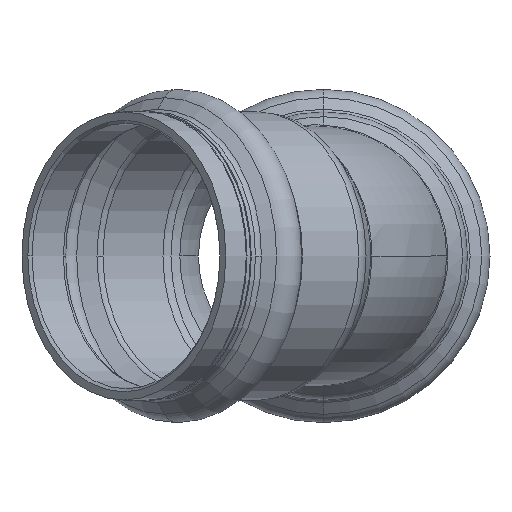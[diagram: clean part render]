
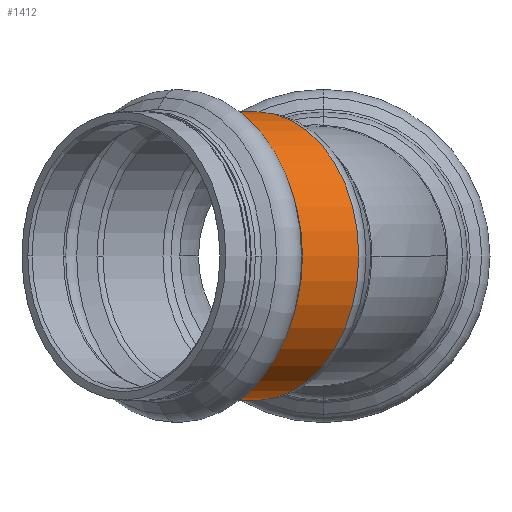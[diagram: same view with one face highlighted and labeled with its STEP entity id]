
A CAD part, left-side view. The second image highlights one B-rep face of the part: STEP entity #1412.
In plain terms, the highlighted cylindrical face has radius 19.15 mm (diameter 38.3 mm), a partial arc.
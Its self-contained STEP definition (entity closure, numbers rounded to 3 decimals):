
#180 = FACE_OUTER_BOUND ( 'NONE', #4101, .T. ) ;
#226 = DIRECTION ( 'NONE',  ( -0.707, 0.707, 0. ) ) ;
#284 = CARTESIAN_POINT ( 'NONE',  ( -8.839, 8.839, -19.15 ) ) ;
#397 = LINE ( 'NONE', #768, #3034 ) ;
#576 = DIRECTION ( 'NONE',  ( 0.707, 0.707, 0. ) ) ;
#591 = DIRECTION ( 'NONE',  ( 0.707, -0.707, 0. ) ) ;
#599 = ORIENTED_EDGE ( 'NONE', *, *, #1116, .T. ) ;
#623 = CARTESIAN_POINT ( 'NONE',  ( -16.322, 16.322, 0. ) ) ;
#704 = ORIENTED_EDGE ( 'NONE', *, *, #1322, .F. ) ;
#761 = AXIS2_PLACEMENT_3D ( 'NONE', #1808, #1793, #1785 ) ;
#768 = CARTESIAN_POINT ( 'NONE',  ( -25.175, 25.175, -19.15 ) ) ;
#822 = VERTEX_POINT ( 'NONE', #1912 ) ;
#895 = AXIS2_PLACEMENT_3D ( 'NONE', #1664, #1717, #1648 ) ;
#907 = CIRCLE ( 'NONE', #3430, 19.15 ) ;
#1013 = CYLINDRICAL_SURFACE ( 'NONE', #895, 19.15 ) ;
#1064 = EDGE_CURVE ( 'NONE', #2768, #822, #3939, .T. ) ;
#1116 = EDGE_CURVE ( 'NONE', #822, #2917, #1383, .T. ) ;
#1121 = ORIENTED_EDGE ( 'NONE', *, *, #2140, .F. ) ;
#1322 = EDGE_CURVE ( 'NONE', #1934, #2350, #397, .T. ) ;
#1383 = CIRCLE ( 'NONE', #1914, 19.15 ) ;
#1412 = ADVANCED_FACE ( 'NONE', ( #180 ), #1013, .T. ) ;
#1648 = DIRECTION ( 'NONE',  ( 0., 0., -1. ) ) ;
#1664 = CARTESIAN_POINT ( 'NONE',  ( -25.175, 25.175, 0. ) ) ;
#1717 = DIRECTION ( 'NONE',  ( -0.707, 0.707, 0. ) ) ;
#1785 = DIRECTION ( 'NONE',  ( 0.707, 0.707, 0. ) ) ;
#1793 = DIRECTION ( 'NONE',  ( 0.707, -0.707, 0. ) ) ;
#1808 = CARTESIAN_POINT ( 'NONE',  ( -16.322, 16.322, 0. ) ) ;
#1815 = DIRECTION ( 'NONE',  ( -0.707, 0.707, 0. ) ) ;
#1912 = CARTESIAN_POINT ( 'NONE',  ( -16.322, 16.322, 19.15 ) ) ;
#1914 = AXIS2_PLACEMENT_3D ( 'NONE', #623, #591, #576 ) ;
#1934 = VERTEX_POINT ( 'NONE', #284 ) ;
#2140 = EDGE_CURVE ( 'NONE', #2768, #1934, #907, .T. ) ;
#2350 = VERTEX_POINT ( 'NONE', #2823 ) ;
#2764 = CARTESIAN_POINT ( 'NONE',  ( -8.839, 8.839, 19.15 ) ) ;
#2768 = VERTEX_POINT ( 'NONE', #2764 ) ;
#2785 = CIRCLE ( 'NONE', #761, 19.15 ) ;
#2823 = CARTESIAN_POINT ( 'NONE',  ( -16.322, 16.322, -19.15 ) ) ;
#2917 = VERTEX_POINT ( 'NONE', #3815 ) ;
#3034 = VECTOR ( 'NONE', #226, 1000. ) ;
#3100 = ORIENTED_EDGE ( 'NONE', *, *, #1064, .T. ) ;
#3149 = EDGE_CURVE ( 'NONE', #2917, #2350, #2785, .T. ) ;
#3190 = VECTOR ( 'NONE', #1815, 1000. ) ;
#3307 = DIRECTION ( 'NONE',  ( 0., 0., -1. ) ) ;
#3430 = AXIS2_PLACEMENT_3D ( 'NONE', #3511, #3501, #3307 ) ;
#3445 = CARTESIAN_POINT ( 'NONE',  ( -25.175, 25.175, 19.15 ) ) ;
#3501 = DIRECTION ( 'NONE',  ( 0.707, -0.707, 0. ) ) ;
#3511 = CARTESIAN_POINT ( 'NONE',  ( -8.839, 8.839, 0. ) ) ;
#3815 = CARTESIAN_POINT ( 'NONE',  ( -29.863, 2.781, 0. ) ) ;
#3939 = LINE ( 'NONE', #3445, #3190 ) ;
#3947 = ORIENTED_EDGE ( 'NONE', *, *, #3149, .T. ) ;
#4101 = EDGE_LOOP ( 'NONE', ( #1121, #3100, #599, #3947, #704 ) ) ;
